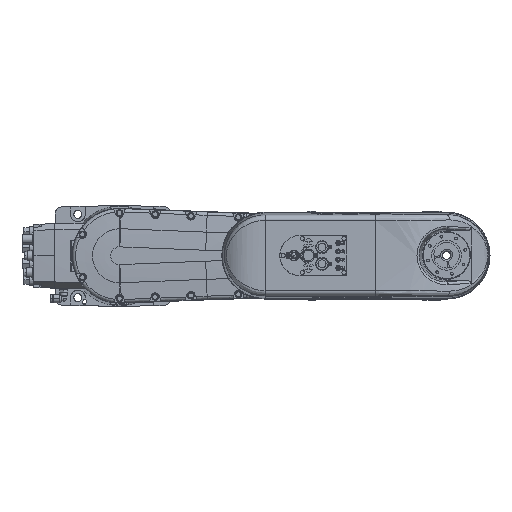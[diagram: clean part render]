
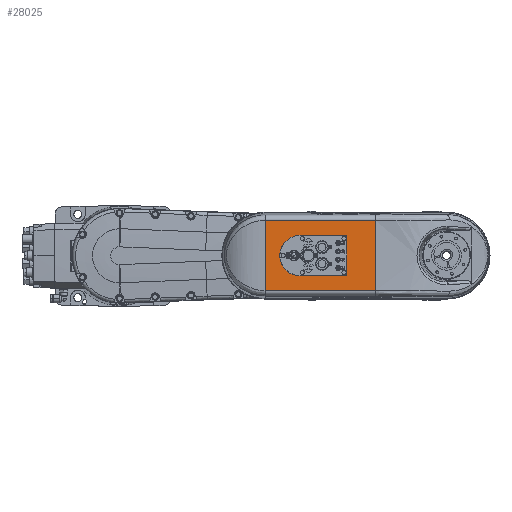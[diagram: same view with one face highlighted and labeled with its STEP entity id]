
A CAD part, top view. The second image highlights one B-rep face of the part: STEP entity #28025.
In plain terms, the highlighted planar face has unit normal (0, 0, 1).
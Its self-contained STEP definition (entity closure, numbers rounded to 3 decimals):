
#21 = CARTESIAN_POINT ( 'NONE',  ( 382.5, 32.001, 457.7 ) ) ;
#1304 = VERTEX_POINT ( 'NONE', #92191 ) ;
#2271 = CARTESIAN_POINT ( 'NONE',  ( 245., 59.156, 457.7 ) ) ;
#4575 = VERTEX_POINT ( 'NONE', #42768 ) ;
#8605 = VERTEX_POINT ( 'NONE', #73989 ) ;
#11031 = CARTESIAN_POINT ( 'NONE',  ( 430., -59.156, 457.7 ) ) ;
#12271 = ORIENTED_EDGE ( 'NONE', *, *, #20982, .T. ) ;
#13274 = LINE ( 'NONE', #21490, #103620 ) ;
#14673 = VECTOR ( 'NONE', #88986, 1000. ) ;
#15082 = DIRECTION ( 'NONE',  ( 0., -1., 0. ) ) ;
#17118 = CARTESIAN_POINT ( 'NONE',  ( 382.5, 33.172, 457.7 ) ) ;
#18642 = FACE_BOUND ( 'NONE', #106108, .T. ) ;
#18827 = CARTESIAN_POINT ( 'NONE',  ( 382.5, -34., 457.7 ) ) ;
#18933 = ORIENTED_EDGE ( 'NONE', *, *, #24291, .F. ) ;
#19616 = VECTOR ( 'NONE', #50120, 1000. ) ;
#20660 = VERTEX_POINT ( 'NONE', #67338 ) ;
#20982 = EDGE_CURVE ( 'NONE', #1304, #24452, #107782, .T. ) ;
#21490 = CARTESIAN_POINT ( 'NONE',  ( 430., -705.455, 457.7 ) ) ;
#23293 = ORIENTED_EDGE ( 'NONE', *, *, #73893, .F. ) ;
#24291 = EDGE_CURVE ( 'NONE', #27293, #8605, #75803, .T. ) ;
#24452 = VERTEX_POINT ( 'NONE', #21 ) ;
#24778 = AXIS2_PLACEMENT_3D ( 'NONE', #25476, #25851, #69496 ) ;
#24939 = CARTESIAN_POINT ( 'NONE',  ( 430., -59.156, 457.7 ) ) ;
#25256 = DIRECTION ( 'NONE',  ( 0., 0., 1. ) ) ;
#25476 = CARTESIAN_POINT ( 'NONE',  ( 303.5, 0., 457.7 ) ) ;
#25851 = DIRECTION ( 'NONE',  ( 0., 0., 1. ) ) ;
#27293 = VERTEX_POINT ( 'NONE', #75479 ) ;
#27657 = VERTEX_POINT ( 'NONE', #11031 ) ;
#27735 = LINE ( 'NONE', #24939, #19616 ) ;
#28025 = ADVANCED_FACE ( 'NONE', ( #68457, #18642 ), #102849, .T. ) ;
#28160 = AXIS2_PLACEMENT_3D ( 'NONE', #33587, #25256, #15082 ) ;
#28297 = VECTOR ( 'NONE', #72242, 1000. ) ;
#29038 = ORIENTED_EDGE ( 'NONE', *, *, #88064, .T. ) ;
#30200 = DIRECTION ( 'NONE',  ( 0., 1., 0. ) ) ;
#31037 = LINE ( 'NONE', #2271, #28297 ) ;
#32468 = ORIENTED_EDGE ( 'NONE', *, *, #47263, .F. ) ;
#33587 = CARTESIAN_POINT ( 'NONE',  ( 245., 0., 457.7 ) ) ;
#39105 = ORIENTED_EDGE ( 'NONE', *, *, #67735, .T. ) ;
#42768 = CARTESIAN_POINT ( 'NONE',  ( 303.5, -34., 457.7 ) ) ;
#46815 = EDGE_CURVE ( 'NONE', #107305, #24452, #53571, .T. ) ;
#46908 = CARTESIAN_POINT ( 'NONE',  ( 382.5, -32.001, 457.7 ) ) ;
#47263 = EDGE_CURVE ( 'NONE', #4575, #57324, #100678, .T. ) ;
#47891 = ORIENTED_EDGE ( 'NONE', *, *, #46815, .F. ) ;
#50120 = DIRECTION ( 'NONE',  ( 1., 0., 0. ) ) ;
#50254 = CARTESIAN_POINT ( 'NONE',  ( 381.672, 34., 457.7 ) ) ;
#51096 = CARTESIAN_POINT ( 'NONE',  ( 382.5, -32.001, 457.7 ) ) ;
#51807 = ORIENTED_EDGE ( 'NONE', *, *, #62518, .T. ) ;
#52846 = DIRECTION ( 'NONE',  ( 0., 1., 0. ) ) ;
#53224 = CARTESIAN_POINT ( 'NONE',  ( 430., 59.156, 457.7 ) ) ;
#53571 = LINE ( 'NONE', #62241, #83273 ) ;
#54947 = EDGE_CURVE ( 'NONE', #20660, #4575, #79370, .T. ) ;
#55104 = CARTESIAN_POINT ( 'NONE',  ( 381.672, -34., 457.7 ) ) ;
#57324 = VERTEX_POINT ( 'NONE', #79436 ) ;
#60576 = LINE ( 'NONE', #71697, #14673 ) ;
#62241 = CARTESIAN_POINT ( 'NONE',  ( 382.5, 34., 457.7 ) ) ;
#62518 = EDGE_CURVE ( 'NONE', #79383, #8605, #31037, .T. ) ;
#63108 = ORIENTED_EDGE ( 'NONE', *, *, #54947, .F. ) ;
#67338 = CARTESIAN_POINT ( 'NONE',  ( 303.5, 34., 457.7 ) ) ;
#67343 = CARTESIAN_POINT ( 'NONE',  ( 245., -705.242, 457.7 ) ) ;
#67735 = EDGE_CURVE ( 'NONE', #107305, #57324, #95086, .T. ) ;
#68324 = CARTESIAN_POINT ( 'NONE',  ( 380.501, 34., 457.7 ) ) ;
#68457 = FACE_OUTER_BOUND ( 'NONE', #73400, .T. ) ;
#69496 = DIRECTION ( 'NONE',  ( 0., 1., 0. ) ) ;
#71697 = CARTESIAN_POINT ( 'NONE',  ( 382.5, 34., 457.7 ) ) ;
#72242 = DIRECTION ( 'NONE',  ( -1., 0., 0. ) ) ;
#72365 = VECTOR ( 'NONE', #79099, 1000. ) ;
#73400 = EDGE_LOOP ( 'NONE', ( #29038, #51807, #18933, #111157 ) ) ;
#73893 = EDGE_CURVE ( 'NONE', #1304, #20660, #60576, .T. ) ;
#73989 = CARTESIAN_POINT ( 'NONE',  ( 245., 59.156, 457.7 ) ) ;
#74548 = DIRECTION ( 'NONE',  ( 0., 1., 0. ) ) ;
#75479 = CARTESIAN_POINT ( 'NONE',  ( 245., -59.156, 457.7 ) ) ;
#75803 = LINE ( 'NONE', #67343, #109476 ) ;
#77363 = CARTESIAN_POINT ( 'NONE',  ( 382.5, 32.001, 457.7 ) ) ;
#79099 = DIRECTION ( 'NONE',  ( 1., 0., 0. ) ) ;
#79370 = CIRCLE ( 'NONE', #24778, 34. ) ;
#79383 = VERTEX_POINT ( 'NONE', #53224 ) ;
#79436 = CARTESIAN_POINT ( 'NONE',  ( 380.501, -34., 457.7 ) ) ;
#83273 = VECTOR ( 'NONE', #52846, 1000. ) ;
#88064 = EDGE_CURVE ( 'NONE', #27657, #79383, #13274, .T. ) ;
#88295 = CARTESIAN_POINT ( 'NONE',  ( 382.5, -33.172, 457.7 ) ) ;
#88986 = DIRECTION ( 'NONE',  ( -1., 0., 0. ) ) ;
#92191 = CARTESIAN_POINT ( 'NONE',  ( 380.501, 34., 457.7 ) ) ;
#95086 =( BOUNDED_CURVE ( )  B_SPLINE_CURVE ( 3, ( #46908, #88295, #55104, #107174 ),
 .UNSPECIFIED., .F., .T. ) 
 B_SPLINE_CURVE_WITH_KNOTS ( ( 4, 4 ),
 ( 2.357, 3.927 ),
 .UNSPECIFIED. ) 
 CURVE ( )  GEOMETRIC_REPRESENTATION_ITEM ( )  RATIONAL_B_SPLINE_CURVE ( ( 1., 0.805, 0.805, 1. ) ) 
 REPRESENTATION_ITEM ( '' )  );
#100678 = LINE ( 'NONE', #18827, #72365 ) ;
#102849 = PLANE ( 'NONE',  #28160 ) ;
#103620 = VECTOR ( 'NONE', #30200, 1000. ) ;
#106108 = EDGE_LOOP ( 'NONE', ( #23293, #12271, #47891, #39105, #32468, #63108 ) ) ;
#106985 = EDGE_CURVE ( 'NONE', #27293, #27657, #27735, .T. ) ;
#107174 = CARTESIAN_POINT ( 'NONE',  ( 380.501, -34., 457.7 ) ) ;
#107305 = VERTEX_POINT ( 'NONE', #51096 ) ;
#107782 =( BOUNDED_CURVE ( )  B_SPLINE_CURVE ( 3, ( #68324, #50254, #17118, #77363 ),
 .UNSPECIFIED., .F., .T. ) 
 B_SPLINE_CURVE_WITH_KNOTS ( ( 4, 4 ),
 ( 2.357, 3.927 ),
 .UNSPECIFIED. ) 
 CURVE ( )  GEOMETRIC_REPRESENTATION_ITEM ( )  RATIONAL_B_SPLINE_CURVE ( ( 1., 0.805, 0.805, 1. ) ) 
 REPRESENTATION_ITEM ( '' )  );
#109476 = VECTOR ( 'NONE', #74548, 1000. ) ;
#111157 = ORIENTED_EDGE ( 'NONE', *, *, #106985, .T. ) ;
